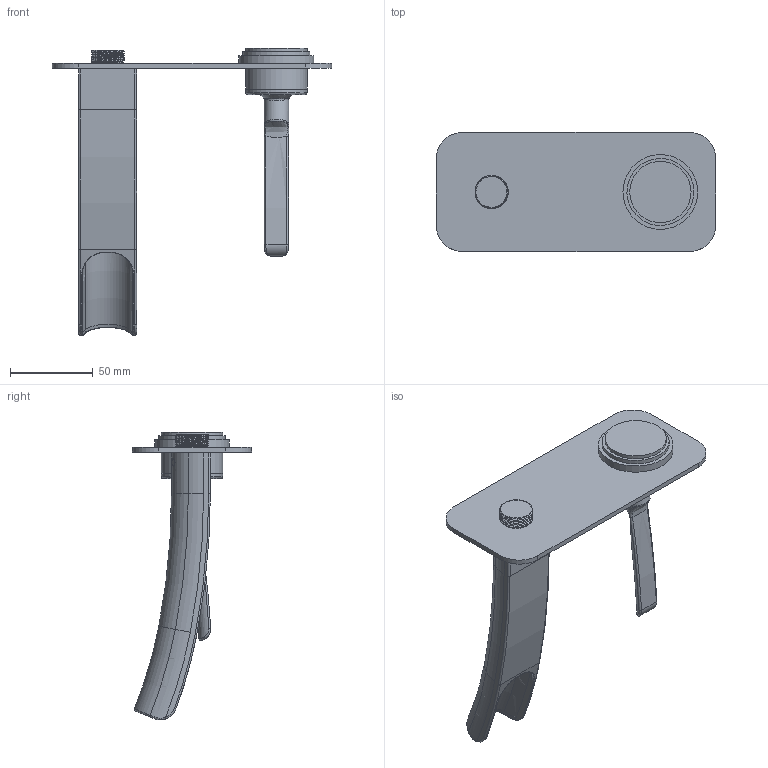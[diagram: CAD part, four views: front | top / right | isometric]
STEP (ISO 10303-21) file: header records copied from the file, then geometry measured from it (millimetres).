
FILE_DESCRIPTION(/* description */ (''),/* implementation_level */ '2;1');
FILE_NAME(/* name */ 'X:\Utilisateurs\Pierre-Hugo\2D FILES - 3D FILES\SA11C 3D.stp',/* time_stamp */ '2019-05-23T16:07:47-04:00',/* author */ ('pcossett'),/* organization */ (''),/* preprocessor_version */ 'ST-DEVELOPER v16.13',/* originating_system */ 'Autodesk Inventor 2018',/* authorisation */ '');
FILE_SCHEMA (('AUTOMOTIVE_DESIGN { 1 0 10303 214 3 1 1 }'));
Length unit declared in the file: millimetre
Products named in the file (1): SA11
Bounding box: 169 x 72 x 173.82 mm (x, y, z)
Volume: 132088.8 mm3; surface area: 56822.5 mm2
Topology: 1 solids, 1 shells, 184 faces, 411 edges, 240 vertices
Faces by surface type: bspline 54, cylinder 49, torus 43, plane 31, cone 4, sphere 3
Full cylindrical faces by diameter (mm): 14.8 x1, 18.5 x1, 37 x3, 40.5 x1, 45.2 x1
Entity records: 8930 total; most frequent: CARTESIAN_POINT 4831, DIRECTION 813, ORIENTED_EDGE 782, EDGE_CURVE 391, AXIS2_PLACEMENT_3D 370, VERTEX_POINT 233, EDGE_LOOP 208, CIRCLE 208
